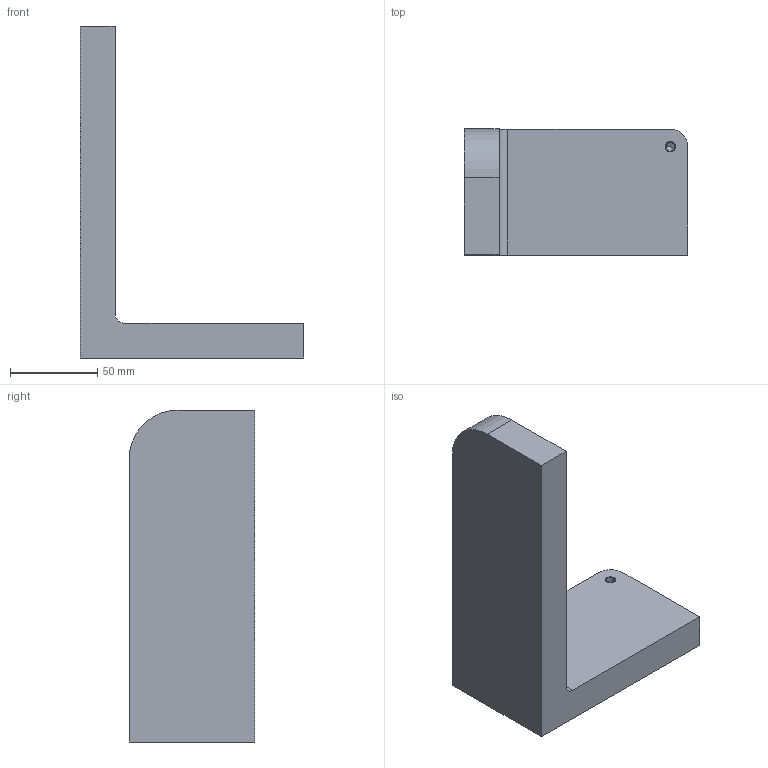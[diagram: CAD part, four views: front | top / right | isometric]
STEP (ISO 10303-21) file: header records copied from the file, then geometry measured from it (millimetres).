
FILE_DESCRIPTION(('CATIA V5 STEP Exchange'),'2;1');
FILE_NAME('C:\_Andres\UNIVERSIDAD\IQS\ASIGNATURAS\DAO\EXF\EXF-16172c\2inicio\Ribera_Armengol_Ej01_v28.stp','2017-03-05T15:11:11+00:00',('none'),('none'),'CATIA Version 5-6 Release 2014 SP1 HF18','CATIA V5 STEP AP203','none');
FILE_SCHEMA(('CONFIG_CONTROL_DESIGN'));
Length unit declared in the file: millimetre
Products named in the file (1): Ribera_Armengol_Ej01_v28
Bounding box: 128 x 72 x 190 mm (x, y, z)
Volume: 425399.3 mm3; surface area: 57338.9 mm2
Topology: 1 solids, 2 shells, 17 faces, 43 edges, 27 vertices
Faces by surface type: plane 8, cylinder 7, cone 2
Entity records: 513 total; most frequent: CARTESIAN_POINT 83, ORIENTED_EDGE 78, DIRECTION 69, EDGE_CURVE 41, AXIS2_PLACEMENT_3D 29, VECTOR 27, LINE 27, VERTEX_POINT 27
